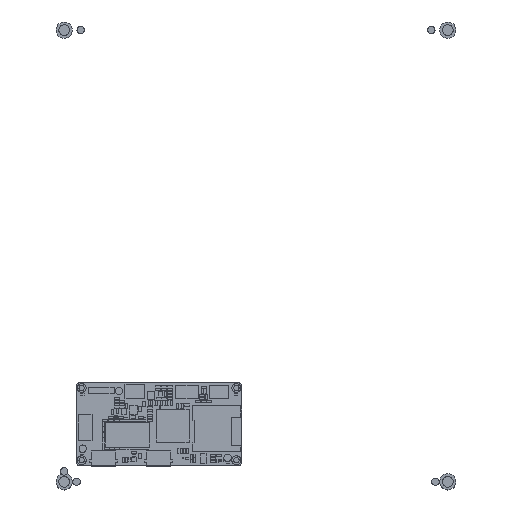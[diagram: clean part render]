
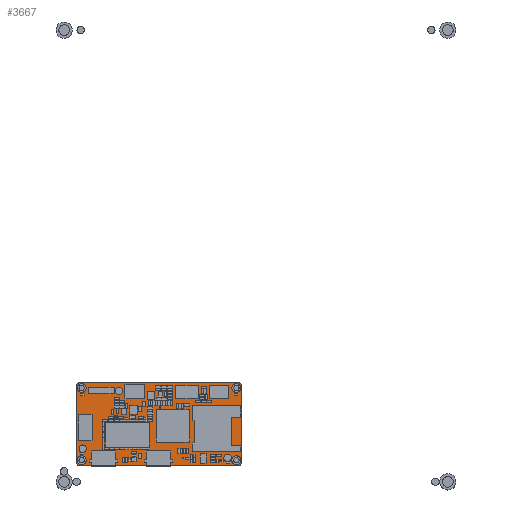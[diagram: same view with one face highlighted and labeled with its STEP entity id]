
A CAD part, top view. The second image highlights one B-rep face of the part: STEP entity #3667.
In plain terms, the highlighted planar face has unit normal (0, 0, 1).
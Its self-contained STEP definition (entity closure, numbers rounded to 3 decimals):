
#2847=FACE_OUTER_BOUND($,#3131,.F.);
#2857=FACE_OUTER_BOUND($,#3141,.T.);
#2861=FACE_OUTER_BOUND($,#3145,.T.);
#2865=FACE_OUTER_BOUND($,#3149,.T.);
#2869=FACE_OUTER_BOUND($,#3153,.T.);
#2873=FACE_OUTER_BOUND($,#3157,.T.);
#3131=EDGE_LOOP($,(#6265,#6266,#6267,#6268,#6269,#6270,#6271,#6272));
#3141=EDGE_LOOP($,(#6313,#6314));
#3145=EDGE_LOOP($,(#6325,#6326));
#3149=EDGE_LOOP($,(#6337,#6338));
#3153=EDGE_LOOP($,(#6349,#6350));
#3157=EDGE_LOOP($,(#6361,#6362));
#3415=PLANE($,#5135);
#3667=ADVANCED_FACE($,(#2847,#2857,#2861,#2865,#2869,#2873),#3415,.T.);
#3941=VECTOR($,#9212,49.022);
#3942=VECTOR($,#9213,23.622);
#3943=VECTOR($,#9214,49.022);
#3944=VECTOR($,#9215,23.622);
#4514=LINE($,#10767,#3941);
#4515=LINE($,#10769,#3942);
#4516=LINE($,#10771,#3943);
#4517=LINE($,#10773,#3944);
#5087=CIRCLE($,#5131,0.889);
#5088=CIRCLE($,#5132,0.889);
#5089=CIRCLE($,#5133,0.889);
#5090=CIRCLE($,#5134,0.889);
#5095=CIRCLE($,#5149,0.826);
#5096=CIRCLE($,#5150,0.826);
#5099=CIRCLE($,#5155,0.826);
#5100=CIRCLE($,#5156,0.826);
#5103=CIRCLE($,#5161,0.826);
#5104=CIRCLE($,#5162,0.826);
#5107=CIRCLE($,#5167,0.826);
#5108=CIRCLE($,#5168,0.826);
#5111=CIRCLE($,#5173,0.229);
#5112=CIRCLE($,#5174,0.229);
#5131=AXIS2_PLACEMENT_3D($,#10775,#9209,$);
#5132=AXIS2_PLACEMENT_3D($,#10776,#9209,$);
#5133=AXIS2_PLACEMENT_3D($,#10777,#9209,$);
#5134=AXIS2_PLACEMENT_3D($,#10778,#9209,$);
#5135=AXIS2_PLACEMENT_3D($,#10767,#9209,$);
#5149=AXIS2_PLACEMENT_3D($,#10799,#9209,$);
#5150=AXIS2_PLACEMENT_3D($,#10800,#9209,$);
#5155=AXIS2_PLACEMENT_3D($,#10811,#9209,$);
#5156=AXIS2_PLACEMENT_3D($,#10812,#9209,$);
#5161=AXIS2_PLACEMENT_3D($,#10823,#9209,$);
#5162=AXIS2_PLACEMENT_3D($,#10824,#9209,$);
#5167=AXIS2_PLACEMENT_3D($,#10835,#9209,$);
#5168=AXIS2_PLACEMENT_3D($,#10836,#9209,$);
#5173=AXIS2_PLACEMENT_3D($,#10847,#9209,$);
#5174=AXIS2_PLACEMENT_3D($,#10848,#9209,$);
#6265=ORIENTED_EDGE($,*,*,#7405,.T.);
#6266=ORIENTED_EDGE($,*,*,#7406,.T.);
#6267=ORIENTED_EDGE($,*,*,#7407,.T.);
#6268=ORIENTED_EDGE($,*,*,#7408,.T.);
#6269=ORIENTED_EDGE($,*,*,#7409,.T.);
#6270=ORIENTED_EDGE($,*,*,#7410,.T.);
#6271=ORIENTED_EDGE($,*,*,#7411,.T.);
#6272=ORIENTED_EDGE($,*,*,#7412,.T.);
#6313=ORIENTED_EDGE($,*,*,#7430,.T.);
#6314=ORIENTED_EDGE($,*,*,#7431,.T.);
#6325=ORIENTED_EDGE($,*,*,#7437,.T.);
#6326=ORIENTED_EDGE($,*,*,#7438,.T.);
#6337=ORIENTED_EDGE($,*,*,#7444,.T.);
#6338=ORIENTED_EDGE($,*,*,#7445,.T.);
#6349=ORIENTED_EDGE($,*,*,#7451,.T.);
#6350=ORIENTED_EDGE($,*,*,#7452,.T.);
#6361=ORIENTED_EDGE($,*,*,#7458,.T.);
#6362=ORIENTED_EDGE($,*,*,#7459,.T.);
#7405=EDGE_CURVE($,#8022,#8023,#5087,.F.);
#7406=EDGE_CURVE($,#8023,#8024,#4514,.T.);
#7407=EDGE_CURVE($,#8024,#8025,#5088,.F.);
#7408=EDGE_CURVE($,#8025,#8026,#4515,.T.);
#7409=EDGE_CURVE($,#8026,#8027,#5089,.F.);
#7410=EDGE_CURVE($,#8027,#8028,#4516,.T.);
#7411=EDGE_CURVE($,#8028,#8029,#5090,.F.);
#7412=EDGE_CURVE($,#8029,#8022,#4517,.T.);
#7430=EDGE_CURVE($,#8040,#8041,#5095,.F.);
#7431=EDGE_CURVE($,#8041,#8040,#5096,.F.);
#7437=EDGE_CURVE($,#8046,#8047,#5099,.F.);
#7438=EDGE_CURVE($,#8047,#8046,#5100,.F.);
#7444=EDGE_CURVE($,#8052,#8053,#5103,.F.);
#7445=EDGE_CURVE($,#8053,#8052,#5104,.F.);
#7451=EDGE_CURVE($,#8058,#8059,#5107,.F.);
#7452=EDGE_CURVE($,#8059,#8058,#5108,.F.);
#7458=EDGE_CURVE($,#8064,#8065,#5111,.F.);
#7459=EDGE_CURVE($,#8065,#8064,#5112,.F.);
#8022=VERTEX_POINT($,#10766);
#8023=VERTEX_POINT($,#10767);
#8024=VERTEX_POINT($,#10768);
#8025=VERTEX_POINT($,#10769);
#8026=VERTEX_POINT($,#10770);
#8027=VERTEX_POINT($,#10771);
#8028=VERTEX_POINT($,#10772);
#8029=VERTEX_POINT($,#10773);
#8040=VERTEX_POINT($,#10796);
#8041=VERTEX_POINT($,#10797);
#8046=VERTEX_POINT($,#10808);
#8047=VERTEX_POINT($,#10809);
#8052=VERTEX_POINT($,#10820);
#8053=VERTEX_POINT($,#10821);
#8058=VERTEX_POINT($,#10832);
#8059=VERTEX_POINT($,#10833);
#8064=VERTEX_POINT($,#10844);
#8065=VERTEX_POINT($,#10845);
#9209=DIRECTION($,(0.,0.,1.));
#9212=DIRECTION($,(-1.,0.,0.));
#9213=DIRECTION($,(0.,1.,0.));
#9214=DIRECTION($,(1.,0.,0.));
#9215=DIRECTION($,(0.,-1.,0.));
#10766=CARTESIAN_POINT('',(48.882,-4.864,0.));
#10767=CARTESIAN_POINT('',(47.993,-5.753,0.));
#10768=CARTESIAN_POINT('',(-1.029,-5.753,0.));
#10769=CARTESIAN_POINT('',(-1.918,-4.864,0.));
#10770=CARTESIAN_POINT('',(-1.918,18.758,0.));
#10771=CARTESIAN_POINT('',(-1.029,19.647,0.));
#10772=CARTESIAN_POINT('',(47.993,19.647,0.));
#10773=CARTESIAN_POINT('',(48.882,18.758,0.));
#10775=CARTESIAN_POINT('',(47.993,-4.864,0.));
#10776=CARTESIAN_POINT('',(-1.029,-4.864,0.));
#10777=CARTESIAN_POINT('',(-1.029,18.758,0.));
#10778=CARTESIAN_POINT('',(47.993,18.758,0.));
#10796=CARTESIAN_POINT('',(48.12,18.059,0.));
#10797=CARTESIAN_POINT('',(46.469,18.059,0.));
#10799=CARTESIAN_POINT('',(47.295,18.059,0.));
#10800=CARTESIAN_POINT('',(47.295,18.059,0.));
#10808=CARTESIAN_POINT('',(48.12,-4.166,0.));
#10809=CARTESIAN_POINT('',(46.469,-4.166,0.));
#10811=CARTESIAN_POINT('',(47.295,-4.166,0.));
#10812=CARTESIAN_POINT('',(47.295,-4.166,0.));
#10820=CARTESIAN_POINT('',(0.495,-4.166,0.));
#10821=CARTESIAN_POINT('',(-1.156,-4.166,0.));
#10823=CARTESIAN_POINT('',(-0.33,-4.166,0.));
#10824=CARTESIAN_POINT('',(-0.33,-4.166,0.));
#10832=CARTESIAN_POINT('',(0.495,18.059,0.));
#10833=CARTESIAN_POINT('',(-1.156,18.059,0.));
#10835=CARTESIAN_POINT('',(-0.33,18.059,0.));
#10836=CARTESIAN_POINT('',(-0.33,18.059,0.));
#10844=CARTESIAN_POINT('',(23.978,12.065,0.));
#10845=CARTESIAN_POINT('',(23.52,12.065,0.));
#10847=CARTESIAN_POINT('',(23.749,12.065,0.));
#10848=CARTESIAN_POINT('',(23.749,12.065,0.));
